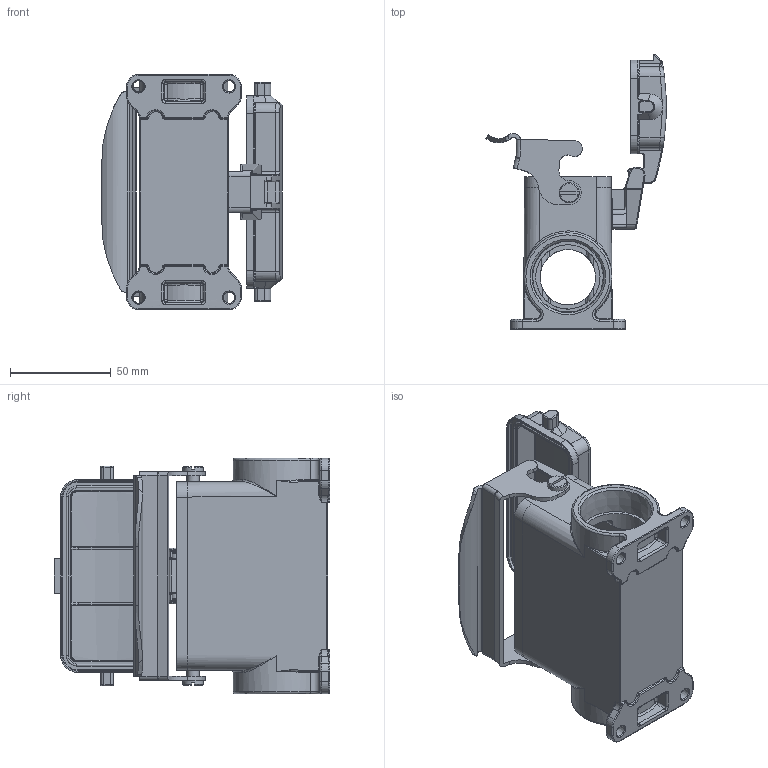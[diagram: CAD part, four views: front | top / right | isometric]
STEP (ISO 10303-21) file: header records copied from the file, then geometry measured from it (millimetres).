
FILE_DESCRIPTION (( 'STEP AP203' ), '1' );
FILE_NAME ('H16B-SDRH-LB-2M32.STEP', '2023-06-09T03:11:13', ( '' ), ( '' ), 'SwSTEP 2.0', 'SolidWorks 2016', '' );
FILE_SCHEMA (( 'CONFIG_CONTROL_DESIGN' ));
Length unit declared in the file: millimetre
Products named in the file (1): H16B-SDRH-LB-2M32
Bounding box: 89.74 x 136.92 x 117 mm (x, y, z)
Volume: 150057.6 mm3; surface area: 85006.1 mm2
Topology: 1 solids, 3 shells, 1002 faces, 2478 edges, 1499 vertices
Faces by surface type: cylinder 377, plane 255, bspline 170, torus 135, cone 45, sphere 20
Full cylindrical faces by diameter (mm): 4 x2, 6 x2, 6.2 x2, 10 x2, 27.5 x1, 32 x1
Entity records: 43220 total; most frequent: CARTESIAN_POINT 21643, ORIENTED_EDGE 4842, DIRECTION 3940, EDGE_CURVE 2421, AXIS2_PLACEMENT_3D 1505, VERTEX_POINT 1485, EDGE_LOOP 1086, FACE_OUTER_BOUND 1016
